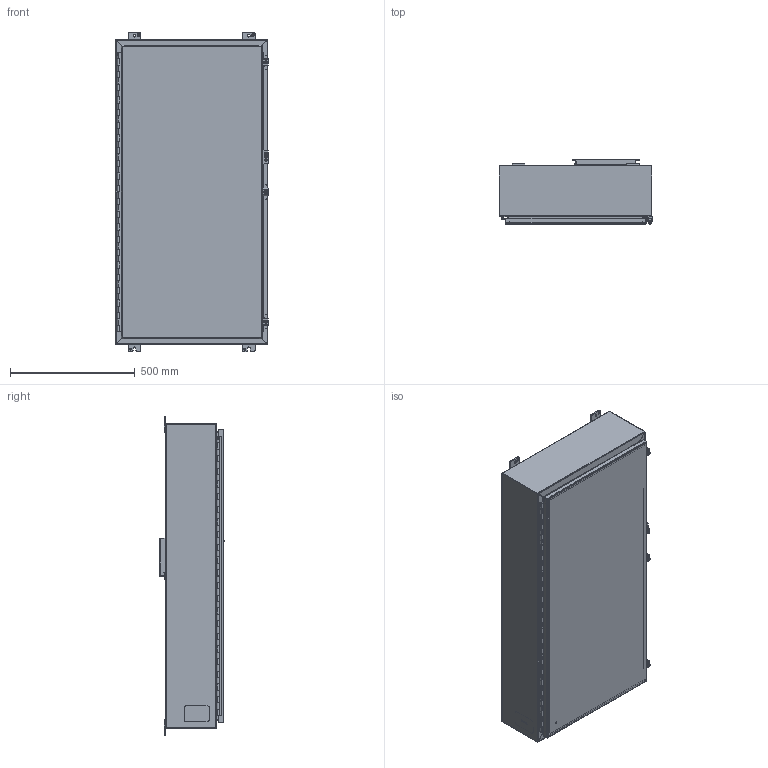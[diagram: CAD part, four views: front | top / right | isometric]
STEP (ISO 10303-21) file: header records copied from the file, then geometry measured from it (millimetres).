
FILE_DESCRIPTION(/* description */ ('Unknown'),/* implementation_level */ '2;1');
FILE_NAME(/* name */ '1418Q8LP',/* time_stamp */ '2026-02-20T16:36:27-05:00',/* author */ ('Unknown'),/* organization */ ('Unknown'),/* preprocessor_version */ 'ST-DEVELOPER v18.104',/* originating_system */ 'Solid Edge',/* authorisation */ 'Unknown');
FILE_SCHEMA (('AUTOMOTIVE_DESIGN {1 0 10303 214 3 1 1}'));
Length unit declared in the file: millimetre
Products named in the file (30): 1418Q8LP; STD26094; STD21878; COM42780; COM40153-1; KIT90256; LAB30005; NTS165305; NTS16535; COM71780-23; COM40153-2; PNT11078; COM70219_oa_0; HNG10620-44C; COM48497; FET07710; KIT90519; WAF25059; NTS166105; AKT90223; SPR20265; SCC19011; WAF25035; COM42667; BUL10020; QLB30109; PKT99; HNG10620-44P; HNG10620-44B
Assembly tree (43 placements, depth 3):
  1418Q8LP
    STD26094  x6
    STD21878
    COM42780  x3
    COM40153-1
    KIT90256
      LAB30005
      NTS165305
      NTS16535
    COM71780-23
      COM40153-2
      COM71780-23
      STD21878
      PNT11078
      COM70219_oa_0
      HNG10620-44C
    COM48497
    FET07710  x4
    KIT90519
      WAF25059
      NTS166105
    AKT90223  x3
      SPR20265
      SCC19011
      WAF25035
      COM42667
    BUL10020
    QLB30109
    PKT99
    HNG10620-44P
    HNG10620-44B
    PNT11078
Bounding box: 612.77 x 257.18 x 1276.35 mm (x, y, z)
Volume: 4962713.2 mm3; surface area: 5369010.7 mm2
Topology: 41 solids, 42 shells, 1485 faces, 3869 edges, 2512 vertices
Faces by surface type: plane 972, cylinder 397, bspline 58, torus 28, cone 28, sphere 2
Full cylindrical faces by diameter (mm): 3.175 x1, 4.763 x1, 4.976 x1, 5.41 x3, 6.198 x3, 6.35 x3, 6.731 x3, 7.137 x2, 7.805 x1, 7.938 x4, 8.382 x6, 9.525 x6, 9.906 x3, 11.113 x4, 11.303 x1, 12.7 x3, 16.51 x6, 25.4 x1, 88.9 x1
Entity records: 34789 total; most frequent: CARTESIAN_POINT 9028, ORIENTED_EDGE 5232, DIRECTION 4933, EDGE_CURVE 2616, LINE 1777, VECTOR 1777, VERTEX_POINT 1705, AXIS2_PLACEMENT_3D 1578
